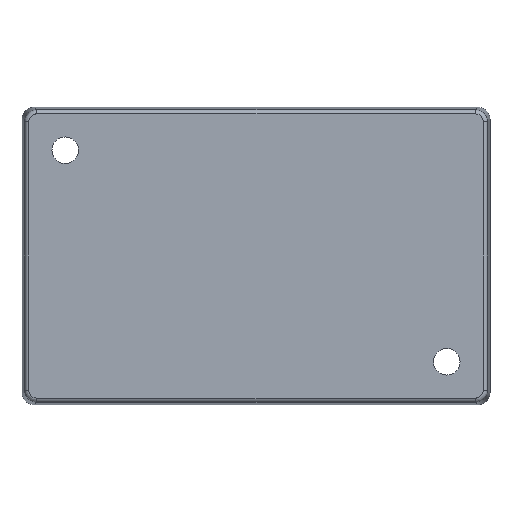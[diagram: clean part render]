
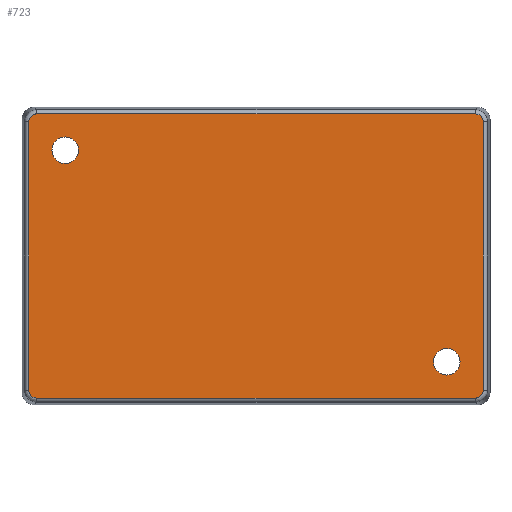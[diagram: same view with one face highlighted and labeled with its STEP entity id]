
A CAD part, front view. The second image highlights one B-rep face of the part: STEP entity #723.
In plain terms, the highlighted planar face has unit normal (0, -1, 0).
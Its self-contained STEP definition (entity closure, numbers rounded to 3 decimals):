
#50 = CARTESIAN_POINT ( 'NONE',  ( -23.6, -12.7, 11.43 ) ) ;
#99 = CARTESIAN_POINT ( 'NONE',  ( -28.13, -12.7, -16.581 ) ) ;
#184 = CARTESIAN_POINT ( 'NONE',  ( -23.6, -12.7, 13.08 ) ) ;
#189 = LINE ( 'NONE', #12246, #2472 ) ;
#270 = EDGE_CURVE ( 'NONE', #4844, #8880, #2187, .T. ) ;
#362 = EDGE_LOOP ( 'NONE', ( #9788, #2683, #3489, #7415, #1741, #4229, #5231, #2045 ) ) ;
#723 = ADVANCED_FACE ( 'NONE', ( #7971, #6872, #6021 ), #1901, .F. ) ;
#867 = CARTESIAN_POINT ( 'NONE',  ( -27.131, -12.7, 17.58 ) ) ;
#962 = VECTOR ( 'NONE', #11173, 1000. ) ;
#964 = CARTESIAN_POINT ( 'NONE',  ( 27.131, -12.7, 17.58 ) ) ;
#991 = EDGE_CURVE ( 'NONE', #5691, #1371, #189, .T. ) ;
#1002 = VERTEX_POINT ( 'NONE', #1295 ) ;
#1038 = CARTESIAN_POINT ( 'NONE',  ( -28.13, -12.7, 16.581 ) ) ;
#1053 = DIRECTION ( 'NONE',  ( 0., 1., 0. ) ) ;
#1184 = EDGE_CURVE ( 'NONE', #5691, #1002, #8506, .T. ) ;
#1295 = CARTESIAN_POINT ( 'NONE',  ( 27.131, -12.7, -17.58 ) ) ;
#1365 = CARTESIAN_POINT ( 'NONE',  ( 23.6, -12.7, -11.43 ) ) ;
#1371 = VERTEX_POINT ( 'NONE', #6381 ) ;
#1741 = ORIENTED_EDGE ( 'NONE', *, *, #1184, .F. ) ;
#1901 = PLANE ( 'NONE',  #5398 ) ;
#1932 = AXIS2_PLACEMENT_3D ( 'NONE', #5419, #3454, #6209 ) ;
#1954 = CARTESIAN_POINT ( 'NONE',  ( -28.13, -12.7, 17.166 ) ) ;
#2045 = ORIENTED_EDGE ( 'NONE', *, *, #6354, .T. ) ;
#2187 =( BOUNDED_CURVE ( )  B_SPLINE_CURVE ( 3, ( #1038, #1954, #5939, #8930 ),
 .UNSPECIFIED., .F., .T. ) 
 B_SPLINE_CURVE_WITH_KNOTS ( ( 4, 4 ),
 ( 5.498, 7.068 ),
 .UNSPECIFIED. ) 
 CURVE ( )  GEOMETRIC_REPRESENTATION_ITEM ( )  RATIONAL_B_SPLINE_CURVE ( ( 1., 0.805, 0.805, 1. ) ) 
 REPRESENTATION_ITEM ( '' )  );
#2200 = EDGE_CURVE ( 'NONE', #10755, #1371, #7113, .T. ) ;
#2209 = DIRECTION ( 'NONE',  ( 0., 0., 1. ) ) ;
#2397 = AXIS2_PLACEMENT_3D ( 'NONE', #184, #3180, #2209 ) ;
#2472 = VECTOR ( 'NONE', #9320, 1000. ) ;
#2683 = ORIENTED_EDGE ( 'NONE', *, *, #12658, .T. ) ;
#2902 = LINE ( 'NONE', #4867, #8174 ) ;
#3180 = DIRECTION ( 'NONE',  ( 0., 1., 0. ) ) ;
#3454 = DIRECTION ( 'NONE',  ( 0., 1., 0. ) ) ;
#3489 = ORIENTED_EDGE ( 'NONE', *, *, #9992, .F. ) ;
#3574 = CARTESIAN_POINT ( 'NONE',  ( -28.13, -12.7, 16.581 ) ) ;
#3612 = VERTEX_POINT ( 'NONE', #5959 ) ;
#3725 = CARTESIAN_POINT ( 'NONE',  ( -28.13, -12.7, -17.166 ) ) ;
#3787 = CIRCLE ( 'NONE', #5884, 1.65 ) ;
#3827 = CARTESIAN_POINT ( 'NONE',  ( 27.716, -12.7, -17.58 ) ) ;
#3899 = CARTESIAN_POINT ( 'NONE',  ( 28.13, -12.7, 16.581 ) ) ;
#3959 = VERTEX_POINT ( 'NONE', #1365 ) ;
#4032 = CARTESIAN_POINT ( 'NONE',  ( 28.13, -12.7, 17.166 ) ) ;
#4229 = ORIENTED_EDGE ( 'NONE', *, *, #991, .T. ) ;
#4474 = ORIENTED_EDGE ( 'NONE', *, *, #10230, .T. ) ;
#4707 = CARTESIAN_POINT ( 'NONE',  ( -27.131, -12.7, -17.58 ) ) ;
#4838 = ORIENTED_EDGE ( 'NONE', *, *, #5784, .T. ) ;
#4844 = VERTEX_POINT ( 'NONE', #3574 ) ;
#4867 = CARTESIAN_POINT ( 'NONE',  ( -28.617, -12.7, 17.58 ) ) ;
#5006 = EDGE_CURVE ( 'NONE', #8447, #3959, #3787, .T. ) ;
#5155 = EDGE_CURVE ( 'NONE', #10502, #1002, #8704, .T. ) ;
#5231 = ORIENTED_EDGE ( 'NONE', *, *, #2200, .F. ) ;
#5398 = AXIS2_PLACEMENT_3D ( 'NONE', #7066, #1053, #12007 ) ;
#5419 = CARTESIAN_POINT ( 'NONE',  ( -23.6, -12.7, 13.08 ) ) ;
#5626 = ORIENTED_EDGE ( 'NONE', *, *, #5006, .T. ) ;
#5691 = VERTEX_POINT ( 'NONE', #9001 ) ;
#5784 = EDGE_CURVE ( 'NONE', #3612, #6886, #9639, .T. ) ;
#5794 = CARTESIAN_POINT ( 'NONE',  ( 28.13, -12.7, -17.166 ) ) ;
#5846 = DIRECTION ( 'NONE',  ( -1., 0., 0. ) ) ;
#5884 = AXIS2_PLACEMENT_3D ( 'NONE', #10480, #9433, #9499 ) ;
#5939 = CARTESIAN_POINT ( 'NONE',  ( -27.716, -12.7, 17.58 ) ) ;
#5959 = CARTESIAN_POINT ( 'NONE',  ( -23.6, -12.7, 14.73 ) ) ;
#6021 = FACE_OUTER_BOUND ( 'NONE', #362, .T. ) ;
#6115 = ORIENTED_EDGE ( 'NONE', *, *, #12494, .T. ) ;
#6209 = DIRECTION ( 'NONE',  ( 0., 0., 1. ) ) ;
#6233 = CARTESIAN_POINT ( 'NONE',  ( -28.13, -12.7, -18.067 ) ) ;
#6354 = EDGE_CURVE ( 'NONE', #10755, #8880, #2902, .T. ) ;
#6367 = CIRCLE ( 'NONE', #2397, 1.65 ) ;
#6381 = CARTESIAN_POINT ( 'NONE',  ( 28.13, -12.7, 16.581 ) ) ;
#6512 = CARTESIAN_POINT ( 'NONE',  ( 23.6, -12.7, -14.73 ) ) ;
#6804 = CARTESIAN_POINT ( 'NONE',  ( -27.716, -12.7, -17.58 ) ) ;
#6827 = DIRECTION ( 'NONE',  ( 0., 1., 0. ) ) ;
#6868 = CARTESIAN_POINT ( 'NONE',  ( -28.13, -12.7, -16.581 ) ) ;
#6872 = FACE_BOUND ( 'NONE', #12078, .T. ) ;
#6886 = VERTEX_POINT ( 'NONE', #50 ) ;
#7026 = CARTESIAN_POINT ( 'NONE',  ( 23.6, -12.7, -13.08 ) ) ;
#7066 = CARTESIAN_POINT ( 'NONE',  ( 0., -12.7, 0. ) ) ;
#7113 =( BOUNDED_CURVE ( )  B_SPLINE_CURVE ( 3, ( #964, #11782, #4032, #3899 ),
 .UNSPECIFIED., .F., .T. ) 
 B_SPLINE_CURVE_WITH_KNOTS ( ( 4, 4 ),
 ( 5.498, 7.068 ),
 .UNSPECIFIED. ) 
 CURVE ( )  GEOMETRIC_REPRESENTATION_ITEM ( )  RATIONAL_B_SPLINE_CURVE ( ( 1., 0.805, 0.805, 1. ) ) 
 REPRESENTATION_ITEM ( '' )  );
#7340 = VECTOR ( 'NONE', #7801, 1000. ) ;
#7415 = ORIENTED_EDGE ( 'NONE', *, *, #5155, .T. ) ;
#7610 = EDGE_LOOP ( 'NONE', ( #6115, #5626 ) ) ;
#7801 = DIRECTION ( 'NONE',  ( 1., 0., 0. ) ) ;
#7971 = FACE_BOUND ( 'NONE', #7610, .T. ) ;
#7990 = DIRECTION ( 'NONE',  ( 0., 0., 1. ) ) ;
#8174 = VECTOR ( 'NONE', #5846, 1000. ) ;
#8447 = VERTEX_POINT ( 'NONE', #6512 ) ;
#8506 =( BOUNDED_CURVE ( )  B_SPLINE_CURVE ( 3, ( #12691, #5794, #3827, #11778 ),
 .UNSPECIFIED., .F., .F. ) 
 B_SPLINE_CURVE_WITH_KNOTS ( ( 4, 4 ),
 ( 5.498, 7.068 ),
 .UNSPECIFIED. ) 
 CURVE ( )  GEOMETRIC_REPRESENTATION_ITEM ( )  RATIONAL_B_SPLINE_CURVE ( ( 1., 0.805, 0.805, 1. ) ) 
 REPRESENTATION_ITEM ( '' )  );
#8598 = VERTEX_POINT ( 'NONE', #99 ) ;
#8704 = LINE ( 'NONE', #12681, #7340 ) ;
#8807 = CARTESIAN_POINT ( 'NONE',  ( -27.131, -12.7, -17.58 ) ) ;
#8880 = VERTEX_POINT ( 'NONE', #867 ) ;
#8930 = CARTESIAN_POINT ( 'NONE',  ( -27.131, -12.7, 17.58 ) ) ;
#9001 = CARTESIAN_POINT ( 'NONE',  ( 28.13, -12.7, -16.581 ) ) ;
#9288 = LINE ( 'NONE', #6233, #962 ) ;
#9320 = DIRECTION ( 'NONE',  ( 0., 0., 1. ) ) ;
#9433 = DIRECTION ( 'NONE',  ( 0., 1., 0. ) ) ;
#9499 = DIRECTION ( 'NONE',  ( 0., 0., 1. ) ) ;
#9639 = CIRCLE ( 'NONE', #1932, 1.65 ) ;
#9788 = ORIENTED_EDGE ( 'NONE', *, *, #270, .F. ) ;
#9992 = EDGE_CURVE ( 'NONE', #10502, #8598, #12500, .T. ) ;
#10191 = CARTESIAN_POINT ( 'NONE',  ( 27.131, -12.7, 17.58 ) ) ;
#10230 = EDGE_CURVE ( 'NONE', #6886, #3612, #6367, .T. ) ;
#10480 = CARTESIAN_POINT ( 'NONE',  ( 23.6, -12.7, -13.08 ) ) ;
#10502 = VERTEX_POINT ( 'NONE', #4707 ) ;
#10744 = CIRCLE ( 'NONE', #12818, 1.65 ) ;
#10755 = VERTEX_POINT ( 'NONE', #10191 ) ;
#11173 = DIRECTION ( 'NONE',  ( 0., 0., -1. ) ) ;
#11778 = CARTESIAN_POINT ( 'NONE',  ( 27.131, -12.7, -17.58 ) ) ;
#11782 = CARTESIAN_POINT ( 'NONE',  ( 27.716, -12.7, 17.58 ) ) ;
#12007 = DIRECTION ( 'NONE',  ( 1., 0., 0. ) ) ;
#12078 = EDGE_LOOP ( 'NONE', ( #4838, #4474 ) ) ;
#12246 = CARTESIAN_POINT ( 'NONE',  ( 28.13, -12.7, 18.067 ) ) ;
#12494 = EDGE_CURVE ( 'NONE', #3959, #8447, #10744, .T. ) ;
#12500 =( BOUNDED_CURVE ( )  B_SPLINE_CURVE ( 3, ( #8807, #6804, #3725, #6868 ),
 .UNSPECIFIED., .F., .F. ) 
 B_SPLINE_CURVE_WITH_KNOTS ( ( 4, 4 ),
 ( 5.498, 7.068 ),
 .UNSPECIFIED. ) 
 CURVE ( )  GEOMETRIC_REPRESENTATION_ITEM ( )  RATIONAL_B_SPLINE_CURVE ( ( 1., 0.805, 0.805, 1. ) ) 
 REPRESENTATION_ITEM ( '' )  );
#12658 = EDGE_CURVE ( 'NONE', #4844, #8598, #9288, .T. ) ;
#12681 = CARTESIAN_POINT ( 'NONE',  ( 28.617, -12.7, -17.58 ) ) ;
#12691 = CARTESIAN_POINT ( 'NONE',  ( 28.13, -12.7, -16.581 ) ) ;
#12818 = AXIS2_PLACEMENT_3D ( 'NONE', #7026, #6827, #7990 ) ;
